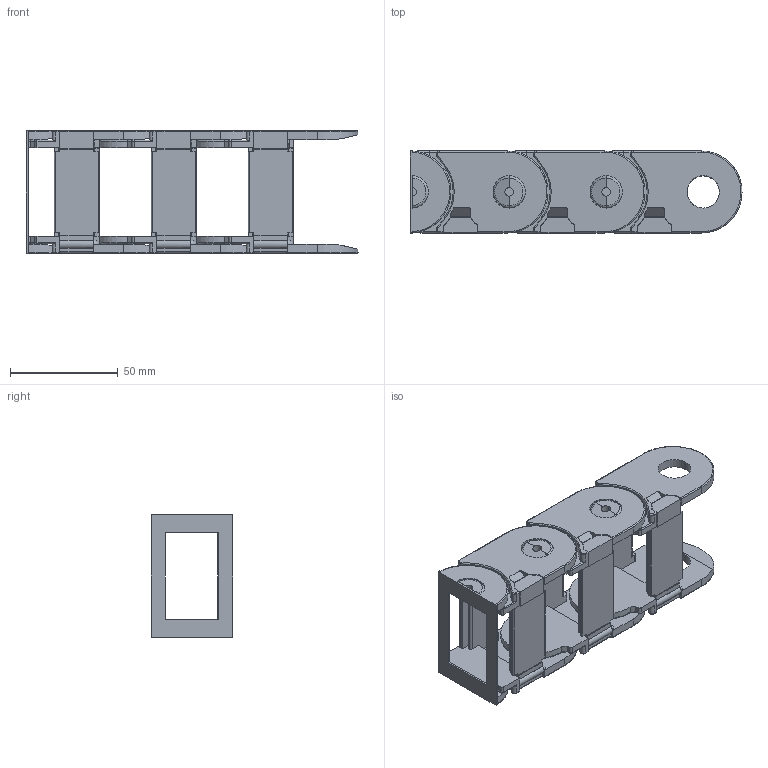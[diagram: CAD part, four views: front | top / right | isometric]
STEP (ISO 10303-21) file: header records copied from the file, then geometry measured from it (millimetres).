
FILE_DESCRIPTION (( 'STEP AP203' ), '1' );
FILE_NAME ('900.040.060.STEP', '2018-03-09T11:10:06', ( '' ), ( '' ), 'SwSTEP 2.0', 'SolidWorks 2016', '' );
FILE_SCHEMA (( 'CONFIG_CONTROL_DESIGN' ));
Length unit declared in the file: millimetre
Products named in the file (1): 900.040.060
Bounding box: 154 x 38 x 57 mm (x, y, z)
Volume: 89878 mm3; surface area: 57666.7 mm2
Topology: 1 solids, 1 shells, 809 faces, 2324 edges, 1500 vertices
Faces by surface type: cylinder 350, plane 339, bspline 120
Entity records: 38236 total; most frequent: CARTESIAN_POINT 18651, ORIENTED_EDGE 4642, DIRECTION 3331, EDGE_CURVE 2321, VERTEX_POINT 1500, LINE 1249, VECTOR 1249, AXIS2_PLACEMENT_3D 1041
